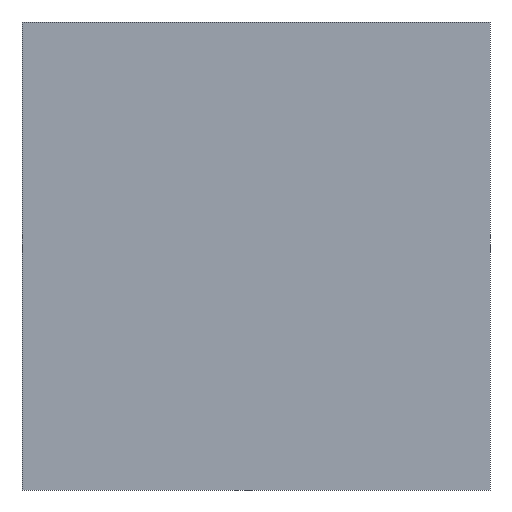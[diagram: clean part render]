
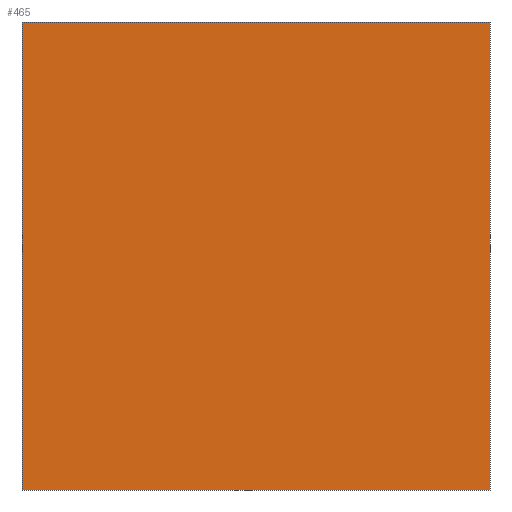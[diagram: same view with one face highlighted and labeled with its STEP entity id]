
A CAD part, front view. The second image highlights one B-rep face of the part: STEP entity #465.
In plain terms, the highlighted planar face has unit normal (0, -1, 0).
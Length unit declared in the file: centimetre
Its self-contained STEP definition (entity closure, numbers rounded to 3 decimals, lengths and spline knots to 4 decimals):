
#5 = EDGE_LOOP ( 'NONE', ( #500, #210, #75, #136 ) ) ;
#15 = LINE ( 'NONE', #428, #447 ) ;
#17 = CARTESIAN_POINT ( 'NONE',  ( 0., 0., 0. ) ) ;
#20 = CARTESIAN_POINT ( 'NONE',  ( 1000., 0., 0. ) ) ;
#28 = DIRECTION ( 'NONE',  ( 0., 0., 1. ) ) ;
#53 = VECTOR ( 'NONE', #65, 100. ) ;
#65 = DIRECTION ( 'NONE',  ( 0., 0., -1. ) ) ;
#75 = ORIENTED_EDGE ( 'NONE', *, *, #318, .F. ) ;
#79 = VERTEX_POINT ( 'NONE', #464 ) ;
#108 = CARTESIAN_POINT ( 'NONE',  ( 0., 0., 0. ) ) ;
#136 = ORIENTED_EDGE ( 'NONE', *, *, #440, .T. ) ;
#144 = LINE ( 'NONE', #298, #53 ) ;
#147 = FACE_OUTER_BOUND ( 'NONE', #5, .T. ) ;
#210 = ORIENTED_EDGE ( 'NONE', *, *, #491, .F. ) ;
#249 = AXIS2_PLACEMENT_3D ( 'NONE', #437, #340, #28 ) ;
#254 = VERTEX_POINT ( 'NONE', #315 ) ;
#290 = DIRECTION ( 'NONE',  ( 1., 0., 0. ) ) ;
#298 = CARTESIAN_POINT ( 'NONE',  ( 1000., 0., 1000. ) ) ;
#312 = VECTOR ( 'NONE', #290, 100. ) ;
#315 = CARTESIAN_POINT ( 'NONE',  ( 1000., 0., 1000. ) ) ;
#318 = EDGE_CURVE ( 'NONE', #79, #254, #430, .T. ) ;
#323 = CARTESIAN_POINT ( 'NONE',  ( 0., 0., 1000. ) ) ;
#340 = DIRECTION ( 'NONE',  ( 0., 1., 0. ) ) ;
#394 = PLANE ( 'NONE',  #249 ) ;
#398 = VERTEX_POINT ( 'NONE', #20 ) ;
#428 = CARTESIAN_POINT ( 'NONE',  ( 0., 0., 1000. ) ) ;
#430 = LINE ( 'NONE', #323, #454 ) ;
#437 = CARTESIAN_POINT ( 'NONE',  ( 0., 0., 1000. ) ) ;
#440 = EDGE_CURVE ( 'NONE', #79, #450, #15, .T. ) ;
#447 = VECTOR ( 'NONE', #459, 100. ) ;
#450 = VERTEX_POINT ( 'NONE', #17 ) ;
#454 = VECTOR ( 'NONE', #482, 100. ) ;
#459 = DIRECTION ( 'NONE',  ( 0., 0., -1. ) ) ;
#461 = LINE ( 'NONE', #108, #312 ) ;
#464 = CARTESIAN_POINT ( 'NONE',  ( 0., 0., 1000. ) ) ;
#465 = ADVANCED_FACE ( 'NONE', ( #147 ), #394, .F. ) ;
#482 = DIRECTION ( 'NONE',  ( 1., 0., 0. ) ) ;
#491 = EDGE_CURVE ( 'NONE', #254, #398, #144, .T. ) ;
#498 = EDGE_CURVE ( 'NONE', #450, #398, #461, .T. ) ;
#500 = ORIENTED_EDGE ( 'NONE', *, *, #498, .T. ) ;
